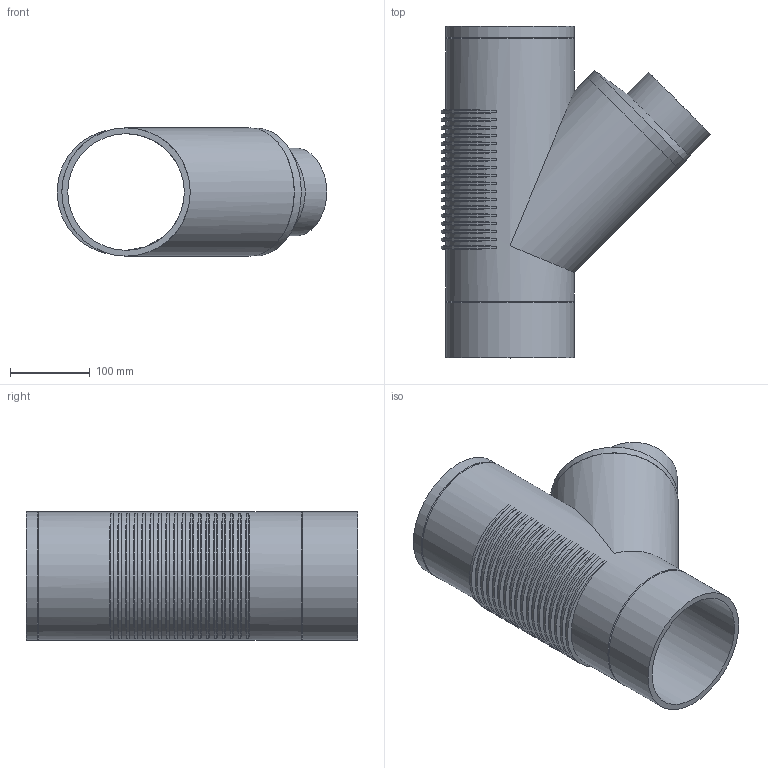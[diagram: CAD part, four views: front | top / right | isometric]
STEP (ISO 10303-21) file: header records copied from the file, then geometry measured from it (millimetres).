
FILE_DESCRIPTION(/* description */ (''),/* implementation_level */ '2;1');
FILE_NAME(/* name */ 'Z:\Geberit\Export\NewStep\315104.stp',/* time_stamp */ '2014-04-01T20:14:42+02:00',/* author */ ('ML'),/* organization */ (''),/* preprocessor_version */ 'ST-DEVELOPER v15.2',/* originating_system */ 'Autodesk Inventor 2014',/* authorisation */ '');
FILE_SCHEMA (('AUTOMOTIVE_DESIGN { 1 0 10303 214 3 1 1 }'));
Length unit declared in the file: millimetre
Products named in the file (3): 862119; 862531; 315104
Bounding box: 336.93 x 415 x 160.47 mm (x, y, z)
Volume: 1952285.5 mm3; surface area: 580647.1 mm2
Topology: 2 solids, 2 shells, 75 faces, 198 edges, 145 vertices
Faces by surface type: cone 40, cylinder 28, plane 5, bspline 2
Full cylindrical faces by diameter (mm): 97.5 x1, 110 x1, 145.3 x1, 145.775 x2, 160 x1, 160.475 x4
Entity records: 3436 total; most frequent: CARTESIAN_POINT 1654, ORIENTED_EDGE 352, DIRECTION 324, EDGE_CURVE 176, AXIS2_PLACEMENT_3D 144, VERTEX_POINT 138, EDGE_LOOP 114, ADVANCED_FACE 75
